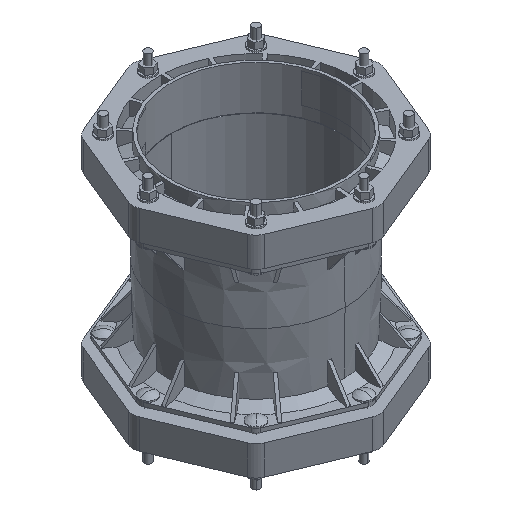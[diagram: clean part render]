
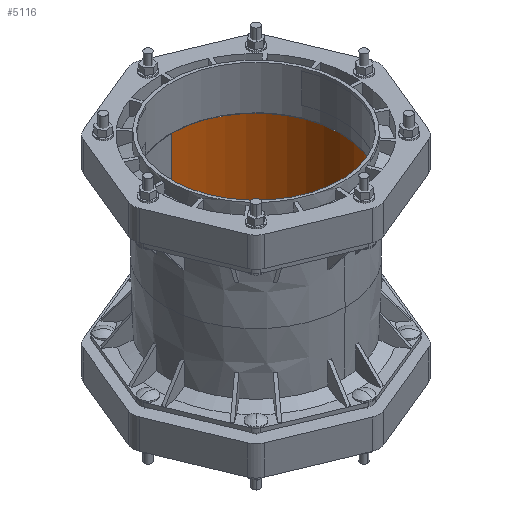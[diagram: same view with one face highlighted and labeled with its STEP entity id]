
A CAD part, isometric view. The second image highlights one B-rep face of the part: STEP entity #5116.
In plain terms, the highlighted cylindrical face has radius 178.75 mm (diameter 357.5 mm), a partial arc.
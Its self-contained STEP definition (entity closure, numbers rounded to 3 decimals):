
#940=DIRECTION('',(0.,0.,-1.));
#941=VECTOR('',#940,271.555);
#942=CARTESIAN_POINT('',(0.,-178.75,135.778));
#943=LINE('',#942,#941);
#944=CARTESIAN_POINT('',(0.,0.,-135.778));
#945=DIRECTION('',(0.,0.,-1.));
#946=DIRECTION('',(0.,1.,0.));
#947=AXIS2_PLACEMENT_3D('',#944,#945,#946);
#949=DIRECTION('',(0.,0.,1.));
#950=VECTOR('',#949,271.555);
#951=CARTESIAN_POINT('',(0.,178.75,-135.778));
#952=LINE('',#951,#950);
#953=CARTESIAN_POINT('',(0.,0.,135.778));
#954=DIRECTION('',(0.,0.,-1.));
#955=DIRECTION('',(0.,1.,0.));
#956=AXIS2_PLACEMENT_3D('',#953,#954,#955);
#3409=CARTESIAN_POINT('',(0.,178.75,135.778));
#3411=VERTEX_POINT('',#3409);
#3413=CARTESIAN_POINT('',(0.,-178.75,135.778));
#3415=VERTEX_POINT('',#3413);
#3702=CARTESIAN_POINT('',(0.,178.75,-135.778));
#3704=VERTEX_POINT('',#3702);
#3706=CARTESIAN_POINT('',(0.,-178.75,-135.778));
#3708=VERTEX_POINT('',#3706);
#5104=CARTESIAN_POINT('',(0.,0.,-7.5));
#5105=DIRECTION('',(0.,0.,1.));
#5106=DIRECTION('',(0.,1.,0.));
#5107=AXIS2_PLACEMENT_3D('',#5104,#5105,#5106);
#5108=CYLINDRICAL_SURFACE('',#5107,178.75);
#5109=ORIENTED_EDGE('',*,*,#5098,.T.);
#5111=ORIENTED_EDGE('',*,*,#5110,.F.);
#5112=ORIENTED_EDGE('',*,*,#5094,.T.);
#5113=ORIENTED_EDGE('',*,*,#5071,.T.);
#5114=EDGE_LOOP('',(#5109,#5111,#5112,#5113));
#5115=FACE_OUTER_BOUND('',#5114,.F.);
#5116=ADVANCED_FACE('',(#5115),#5108,.F.);
#948=CIRCLE('',#947,178.75);
#957=CIRCLE('',#956,178.75);
#5071=EDGE_CURVE('',#3411,#3415,#957,.T.);
#5094=EDGE_CURVE('',#3704,#3411,#952,.T.);
#5098=EDGE_CURVE('',#3415,#3708,#943,.T.);
#5110=EDGE_CURVE('',#3704,#3708,#948,.T.);
